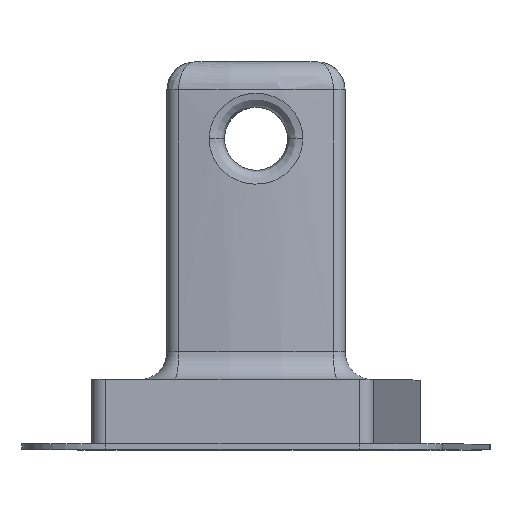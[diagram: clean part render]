
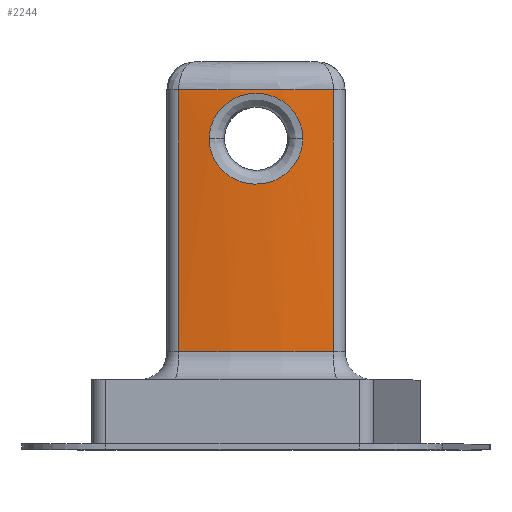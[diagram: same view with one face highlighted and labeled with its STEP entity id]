
A CAD part, top view. The second image highlights one B-rep face of the part: STEP entity #2244.
In plain terms, the highlighted cylindrical face has radius 34.167 mm (diameter 68.334 mm), a partial arc.
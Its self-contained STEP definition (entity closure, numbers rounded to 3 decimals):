
#78=DIRECTION('',(0.,-1.,0.));
#79=VECTOR('',#78,18.75);
#80=CARTESIAN_POINT('',(-5.537,3.5,3.048));
#81=LINE('',#80,#79);
#82=CARTESIAN_POINT('',(0.,3.5,-30.667));
#83=DIRECTION('',(0.,1.,0.));
#84=DIRECTION('',(-0.162,0.,0.987));
#85=AXIS2_PLACEMENT_3D('',#82,#83,#84);
#87=DIRECTION('',(0.,-1.,0.));
#88=VECTOR('',#87,18.75);
#89=CARTESIAN_POINT('',(5.537,3.5,3.048));
#90=LINE('',#89,#88);
#91=CARTESIAN_POINT('',(0.,-15.25,-30.667));
#92=DIRECTION('',(0.,-1.,0.));
#93=DIRECTION('',(0.162,0.,0.987));
#94=AXIS2_PLACEMENT_3D('',#91,#92,#93);
#96=CARTESIAN_POINT('',(-3.348,0.,
3.336));
#97=CARTESIAN_POINT('',(-3.348,0.128,3.336));
#98=CARTESIAN_POINT('',(-3.333,0.383,3.337));
#99=CARTESIAN_POINT('',(-3.262,0.764,3.344));
#100=CARTESIAN_POINT('',(-3.145,1.137,3.355));
#101=CARTESIAN_POINT('',(-2.983,1.493,3.37));
#102=CARTESIAN_POINT('',(-2.777,1.829,3.387));
#103=CARTESIAN_POINT('',(-2.531,2.14,3.407));
#104=CARTESIAN_POINT('',(-2.245,2.422,3.427));
#105=CARTESIAN_POINT('',(-1.925,2.669,3.446));
#106=CARTESIAN_POINT('',(-1.577,2.876,3.464));
#107=CARTESIAN_POINT('',(-1.204,3.041,3.48));
#108=CARTESIAN_POINT('',(-0.812,3.161,3.491));
#109=CARTESIAN_POINT('',(-0.408,3.234,3.498));
#110=CARTESIAN_POINT('',(0.003,3.258,3.501));
#111=CARTESIAN_POINT('',(0.413,3.233,3.498));
#112=CARTESIAN_POINT('',(0.817,3.16,3.491));
#113=CARTESIAN_POINT('',(1.207,3.04,3.479));
#114=CARTESIAN_POINT('',(1.579,2.875,3.464));
#115=CARTESIAN_POINT('',(1.927,2.667,3.446));
#116=CARTESIAN_POINT('',(2.246,2.421,3.427));
#117=CARTESIAN_POINT('',(2.529,2.141,3.407));
#118=CARTESIAN_POINT('',(2.774,1.833,3.387));
#119=CARTESIAN_POINT('',(2.98,1.498,3.37));
#120=CARTESIAN_POINT('',(3.142,1.143,3.355));
#121=CARTESIAN_POINT('',(3.26,0.773,3.344));
#122=CARTESIAN_POINT('',(3.332,0.388,3.337));
#123=CARTESIAN_POINT('',(3.348,0.13,3.336));
#124=CARTESIAN_POINT('',(3.348,0.,3.336));
#126=CARTESIAN_POINT('',(3.348,0.,3.336));
#127=CARTESIAN_POINT('',(3.348,-0.128,3.336));
#128=CARTESIAN_POINT('',(3.333,-0.383,3.337));
#129=CARTESIAN_POINT('',(3.262,-0.764,3.344));
#130=CARTESIAN_POINT('',(3.145,-1.137,3.355));
#131=CARTESIAN_POINT('',(2.983,-1.493,3.37));
#132=CARTESIAN_POINT('',(2.777,-1.829,3.387));
#133=CARTESIAN_POINT('',(2.531,-2.14,3.407));
#134=CARTESIAN_POINT('',(2.245,-2.422,3.427));
#135=CARTESIAN_POINT('',(1.925,-2.669,3.446));
#136=CARTESIAN_POINT('',(1.577,-2.876,3.464));
#137=CARTESIAN_POINT('',(1.204,-3.041,3.48));
#138=CARTESIAN_POINT('',(0.812,-3.161,3.491));
#139=CARTESIAN_POINT('',(0.408,-3.234,3.498));
#140=CARTESIAN_POINT('',(-0.003,-3.258,
3.501));
#141=CARTESIAN_POINT('',(-0.413,-3.233,
3.498));
#142=CARTESIAN_POINT('',(-0.817,-3.16,
3.491));
#143=CARTESIAN_POINT('',(-1.207,-3.04,3.479));
#144=CARTESIAN_POINT('',(-1.579,-2.875,3.464));
#145=CARTESIAN_POINT('',(-1.927,-2.667,3.446));
#146=CARTESIAN_POINT('',(-2.246,-2.421,3.427));
#147=CARTESIAN_POINT('',(-2.529,-2.141,3.407));
#148=CARTESIAN_POINT('',(-2.774,-1.833,3.387));
#149=CARTESIAN_POINT('',(-2.98,-1.498,3.37));
#150=CARTESIAN_POINT('',(-3.142,-1.143,3.355));
#151=CARTESIAN_POINT('',(-3.26,-0.773,
3.344));
#152=CARTESIAN_POINT('',(-3.332,-0.388,
3.337));
#153=CARTESIAN_POINT('',(-3.348,-0.13,
3.336));
#154=CARTESIAN_POINT('',(-3.348,0.,
3.336));
#1706=CARTESIAN_POINT('',(-5.537,3.5,3.048));
#1707=CARTESIAN_POINT('',(5.537,3.5,3.048));
#1708=VERTEX_POINT('',#1706);
#1709=VERTEX_POINT('',#1707);
#1712=CARTESIAN_POINT('',(-5.537,-15.25,3.048));
#1713=VERTEX_POINT('',#1712);
#1714=CARTESIAN_POINT('',(5.537,-15.25,3.048));
#1715=VERTEX_POINT('',#1714);
#1774=VERTEX_POINT('',#96);
#1775=VERTEX_POINT('',#124);
#2225=CARTESIAN_POINT('',(0.,-22.25,-30.667));
#2226=DIRECTION('',(0.,1.,0.));
#2227=DIRECTION('',(0.,0.,-1.));
#2228=AXIS2_PLACEMENT_3D('',#2225,#2226,#2227);
#2229=CYLINDRICAL_SURFACE('',#2228,34.167);
#2230=ORIENTED_EDGE('',*,*,#2132,.F.);
#2231=ORIENTED_EDGE('',*,*,#2216,.T.);
#2233=ORIENTED_EDGE('',*,*,#2232,.T.);
#2235=ORIENTED_EDGE('',*,*,#2234,.T.);
#2236=EDGE_LOOP('',(#2230,#2231,#2233,#2235));
#2237=FACE_OUTER_BOUND('',#2236,.F.);
#2239=ORIENTED_EDGE('',*,*,#2238,.F.);
#2241=ORIENTED_EDGE('',*,*,#2240,.F.);
#2242=EDGE_LOOP('',(#2239,#2241));
#2243=FACE_BOUND('',#2242,.F.);
#2244=ADVANCED_FACE('',(#2237,#2243),#2229,.T.);
#86=CIRCLE('',#85,34.167);
#95=CIRCLE('',#94,34.167);
#125=B_SPLINE_CURVE_WITH_KNOTS('',3,(#96,#97,#98,#99,#100,#101,#102,#103,#104,
#105,#106,#107,#108,#109,#110,#111,#112,#113,#114,#115,#116,#117,#118,#119,#120,
#121,#122,#123,#124),.UNSPECIFIED.,.F.,.F.,(4,1,1,1,1,1,1,1,1,1,1,1,1,1,1,1,1,1,
1,1,1,1,1,1,1,1,4),(0.,0.038,0.077,0.115,
0.154,0.192,0.231,0.269,
0.308,0.346,0.385,0.423,
0.462,0.5,0.538,0.577,0.615,
0.654,0.692,0.731,0.769,
0.808,0.846,0.885,0.923,
0.962,1.),.UNSPECIFIED.);
#155=B_SPLINE_CURVE_WITH_KNOTS('',3,(#126,#127,#128,#129,#130,#131,#132,#133,
#134,#135,#136,#137,#138,#139,#140,#141,#142,#143,#144,#145,#146,#147,#148,#149,
#150,#151,#152,#153,#154),.UNSPECIFIED.,.F.,.F.,(4,1,1,1,1,1,1,1,1,1,1,1,1,1,1,
1,1,1,1,1,1,1,1,1,1,1,4),(0.,0.038,0.077,
0.115,0.154,0.192,0.231,
0.269,0.308,0.346,0.385,
0.423,0.462,0.5,0.538,0.577,
0.615,0.654,0.692,0.731,
0.769,0.808,0.846,0.885,
0.923,0.962,1.),.UNSPECIFIED.);
#2132=EDGE_CURVE('',#1708,#1713,#81,.T.);
#2216=EDGE_CURVE('',#1708,#1709,#86,.T.);
#2232=EDGE_CURVE('',#1709,#1715,#90,.T.);
#2234=EDGE_CURVE('',#1715,#1713,#95,.T.);
#2238=EDGE_CURVE('',#1774,#1775,#125,.T.);
#2240=EDGE_CURVE('',#1775,#1774,#155,.T.);
